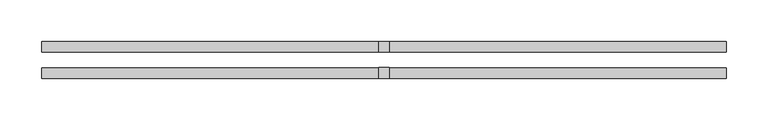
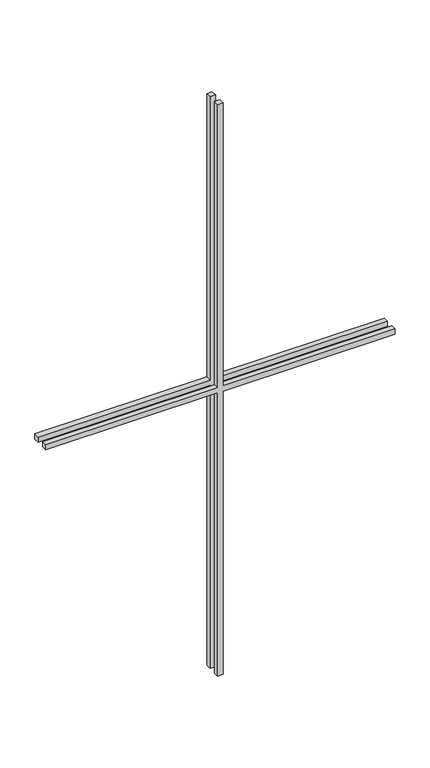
"""IFC4 building model written with IfcOpenShell, lengths in millimetres: proxy geometry, M_Vzor mezilehlého svislého vlysu_2x2 : M_Vzor mezilehlého svislého vlysu_2x2."""

from ifc_helpers import new_model, si_unit, frame, origin, place, context, project, spatial, polyline, outline, extrude, source, transform, mapped, element, save


def generic_models_08f28809(model_context):
    return source(origin(), model_context, "Body", "SweptSolid", [
        extrude(outline(polyline([(718.25, -6.35), (718.25, -411.9), (705.55, -411.9), (705.55, -6.35), (0.0, -6.35), (0.0, 6.35), (705.55, 6.35), (705.55, 411.9), (718.25, 411.9), (718.25, 6.35), (1423.8, 6.35), (1423.8, -6.35), (718.25, -6.35)])), frame((0.0, -22.225, 0.0), z_axis=(0.0, 1.0, 0.0), x_axis=(0.0, 0.0, 1.0)), (0.0, 0.0, 1.0), 12.7),
        extrude(outline(polyline([(718.25, -6.35), (718.25, -411.9), (705.55, -411.9), (705.55, -6.35), (0.0, -6.35), (0.0, 6.35), (705.55, 6.35), (705.55, 411.9), (718.25, 411.9), (718.25, 6.35), (1423.8, 6.35), (1423.8, -6.35), (718.25, -6.35)])), frame((0.0, 9.525, 0.0), z_axis=(0.0, 1.0, 0.0), x_axis=(0.0, 0.0, 1.0)), (0.0, 0.0, 1.0), 12.7),
    ])


if __name__ == "__main__":
    model = new_model("IFC4")
    model_context = context("Model", 3, world=origin())
    ifc_project = project(units=[si_unit("LENGTHUNIT", "METRE", prefix="MILLI")], contexts=[model_context])
    site = spatial("IfcSite", under=ifc_project)
    building = spatial("IfcBuilding", under=site)
    placement = place(None, origin())
    generic_models_shape = generic_models_08f28809(model_context)
    element("IfcBuildingElementProxy", 1, Name="M_Vzor mezilehlého svislého vlysu_2x2 : M_Vzor mezilehlého svislého vlysu_2x2", ObjectType="M_Vzor mezilehlého svislého vlysu_2x2 : M_Vzor mezilehlého svislého vlysu_2x2", at=placement, inside=building, context=model_context, shape_type="MappedRepresentation", body=[
        mapped(generic_models_shape, transform((0.0, 0.0, 0.0), x_axis=(1.0, 0.0, 0.0), y_axis=(0.0, 1.0, 0.0), z_axis=(0.0, 0.0, 1.0))),
    ])
    save(model, "model.ifc")
